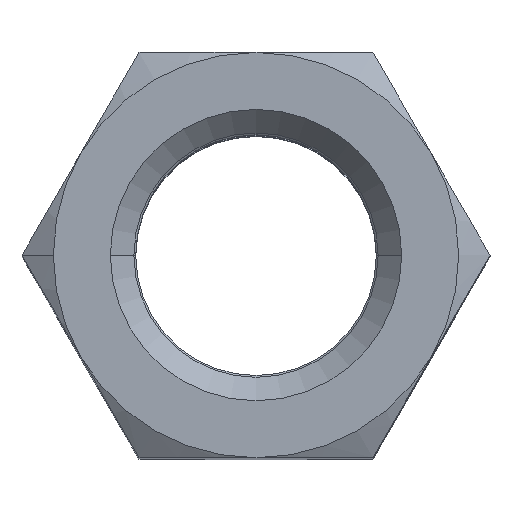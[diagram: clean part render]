
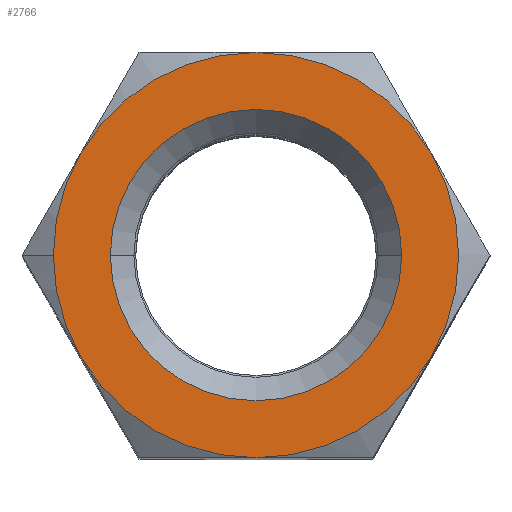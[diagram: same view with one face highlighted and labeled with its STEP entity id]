
A CAD part, top view. The second image highlights one B-rep face of the part: STEP entity #2766.
In plain terms, the highlighted planar face has unit normal (0, 0, 1).
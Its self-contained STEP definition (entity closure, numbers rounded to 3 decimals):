
#83 = EDGE_CURVE ( 'NONE', #6556, #5049, #10028, .T. ) ;
#237 = CARTESIAN_POINT ( 'NONE',  ( 0., 0., 40.25 ) ) ;
#468 = DIRECTION ( 'NONE',  ( 1., 0., 0. ) ) ;
#490 = DIRECTION ( 'NONE',  ( 0., 0., -1. ) ) ;
#504 = CARTESIAN_POINT ( 'NONE',  ( 0., 0., 40.25 ) ) ;
#684 = DIRECTION ( 'NONE',  ( 1., 0., 0. ) ) ;
#1096 = EDGE_CURVE ( 'NONE', #15287, #9611, #11725, .T. ) ;
#1455 = AXIS2_PLACEMENT_3D ( 'NONE', #504, #490, #468 ) ;
#1516 = DIRECTION ( 'NONE',  ( 1., 0., 0. ) ) ;
#1581 = CIRCLE ( 'NONE', #5760, 16. ) ;
#1716 = CARTESIAN_POINT ( 'NONE',  ( 13.856, 8., 40.25 ) ) ;
#1963 = CIRCLE ( 'NONE', #5656, 11.5 ) ;
#2408 = FACE_OUTER_BOUND ( 'NONE', #11923, .T. ) ;
#2522 = CARTESIAN_POINT ( 'NONE',  ( -13.856, -8., 40.25 ) ) ;
#2766 = ADVANCED_FACE ( 'NONE', ( #8516, #2408 ), #3907, .T. ) ;
#2843 = CARTESIAN_POINT ( 'NONE',  ( -13.856, 8., 40.25 ) ) ;
#3281 = AXIS2_PLACEMENT_3D ( 'NONE', #13113, #5764, #14403 ) ;
#3753 = CIRCLE ( 'NONE', #3281, 16. ) ;
#3907 = PLANE ( 'NONE',  #15639 ) ;
#4028 = AXIS2_PLACEMENT_3D ( 'NONE', #5522, #14156, #6743 ) ;
#4084 = DIRECTION ( 'NONE',  ( 1., 0., 0. ) ) ;
#4178 = CARTESIAN_POINT ( 'NONE',  ( -18.475, 0., 40.25 ) ) ;
#4233 = DIRECTION ( 'NONE',  ( 0., 0., 1. ) ) ;
#5036 = EDGE_CURVE ( 'NONE', #12123, #8881, #12647, .T. ) ;
#5049 = VERTEX_POINT ( 'NONE', #6648 ) ;
#5522 = CARTESIAN_POINT ( 'NONE',  ( 0., 0., 40.25 ) ) ;
#5576 = CIRCLE ( 'NONE', #4028, 16. ) ;
#5656 = AXIS2_PLACEMENT_3D ( 'NONE', #15482, #8055, #684 ) ;
#5701 = DIRECTION ( 'NONE',  ( 0., 0., -1. ) ) ;
#5760 = AXIS2_PLACEMENT_3D ( 'NONE', #13043, #5701, #14349 ) ;
#5764 = DIRECTION ( 'NONE',  ( 0., 0., -1. ) ) ;
#6556 = VERTEX_POINT ( 'NONE', #8037 ) ;
#6606 = ORIENTED_EDGE ( 'NONE', *, *, #14192, .T. ) ;
#6620 = DIRECTION ( 'NONE',  ( -1., 0., 0. ) ) ;
#6648 = CARTESIAN_POINT ( 'NONE',  ( 0., -16., 40.25 ) ) ;
#6743 = DIRECTION ( 'NONE',  ( 1., 0., 0. ) ) ;
#6880 = DIRECTION ( 'NONE',  ( 0., 0., -1. ) ) ;
#6882 = DIRECTION ( 'NONE',  ( 1., 0., 0. ) ) ;
#6937 = DIRECTION ( 'NONE',  ( 0., 0., -1. ) ) ;
#7003 = CARTESIAN_POINT ( 'NONE',  ( 0., 0., 40.25 ) ) ;
#7057 = DIRECTION ( 'NONE',  ( 0., 0., -1. ) ) ;
#7160 = VERTEX_POINT ( 'NONE', #10439 ) ;
#7222 = ORIENTED_EDGE ( 'NONE', *, *, #5036, .T. ) ;
#7543 = ORIENTED_EDGE ( 'NONE', *, *, #83, .F. ) ;
#7620 = EDGE_CURVE ( 'NONE', #5049, #7806, #3753, .T. ) ;
#7806 = VERTEX_POINT ( 'NONE', #2522 ) ;
#7948 = ORIENTED_EDGE ( 'NONE', *, *, #1096, .F. ) ;
#8037 = CARTESIAN_POINT ( 'NONE',  ( 13.856, -8., 40.25 ) ) ;
#8055 = DIRECTION ( 'NONE',  ( 0., 0., -1. ) ) ;
#8068 = CARTESIAN_POINT ( 'NONE',  ( -11.5, 0., 40.25 ) ) ;
#8329 = AXIS2_PLACEMENT_3D ( 'NONE', #14455, #7057, #15731 ) ;
#8516 = FACE_BOUND ( 'NONE', #10313, .T. ) ;
#8856 = DIRECTION ( 'NONE',  ( 0., 0., -1. ) ) ;
#8881 = VERTEX_POINT ( 'NONE', #13469 ) ;
#9611 = VERTEX_POINT ( 'NONE', #15073 ) ;
#9776 = EDGE_CURVE ( 'NONE', #7806, #7160, #11873, .T. ) ;
#9842 = CIRCLE ( 'NONE', #14988, 16. ) ;
#10028 = CIRCLE ( 'NONE', #1455, 16. ) ;
#10313 = EDGE_LOOP ( 'NONE', ( #6606, #7222 ) ) ;
#10320 = EDGE_CURVE ( 'NONE', #7160, #15287, #1581, .T. ) ;
#10439 = CARTESIAN_POINT ( 'NONE',  ( -16., 0., 40.25 ) ) ;
#10553 = ORIENTED_EDGE ( 'NONE', *, *, #10320, .F. ) ;
#10753 = ORIENTED_EDGE ( 'NONE', *, *, #7620, .F. ) ;
#11484 = VERTEX_POINT ( 'NONE', #1716 ) ;
#11725 = CIRCLE ( 'NONE', #13367, 16. ) ;
#11748 = ORIENTED_EDGE ( 'NONE', *, *, #14154, .F. ) ;
#11873 = CIRCLE ( 'NONE', #8329, 16. ) ;
#11904 = ORIENTED_EDGE ( 'NONE', *, *, #14599, .F. ) ;
#11923 = EDGE_LOOP ( 'NONE', ( #7543, #11904, #11748, #7948, #10553, #12126, #10753 ) ) ;
#12058 = AXIS2_PLACEMENT_3D ( 'NONE', #7003, #6937, #6882 ) ;
#12123 = VERTEX_POINT ( 'NONE', #8068 ) ;
#12126 = ORIENTED_EDGE ( 'NONE', *, *, #9776, .F. ) ;
#12647 = CIRCLE ( 'NONE', #12058, 11.5 ) ;
#13043 = CARTESIAN_POINT ( 'NONE',  ( 0., 0., 40.25 ) ) ;
#13113 = CARTESIAN_POINT ( 'NONE',  ( 0., 0., 40.25 ) ) ;
#13367 = AXIS2_PLACEMENT_3D ( 'NONE', #13656, #6880, #6620 ) ;
#13469 = CARTESIAN_POINT ( 'NONE',  ( 11.5, 0., 40.25 ) ) ;
#13656 = CARTESIAN_POINT ( 'NONE',  ( 0., 0., 40.25 ) ) ;
#14154 = EDGE_CURVE ( 'NONE', #9611, #11484, #5576, .T. ) ;
#14156 = DIRECTION ( 'NONE',  ( 0., 0., -1. ) ) ;
#14192 = EDGE_CURVE ( 'NONE', #8881, #12123, #1963, .T. ) ;
#14349 = DIRECTION ( 'NONE',  ( 1., 0., 0. ) ) ;
#14403 = DIRECTION ( 'NONE',  ( 1., 0., 0. ) ) ;
#14455 = CARTESIAN_POINT ( 'NONE',  ( 0., 0., 40.25 ) ) ;
#14599 = EDGE_CURVE ( 'NONE', #11484, #6556, #9842, .T. ) ;
#14988 = AXIS2_PLACEMENT_3D ( 'NONE', #237, #8856, #1516 ) ;
#15073 = CARTESIAN_POINT ( 'NONE',  ( 0., 16., 40.25 ) ) ;
#15287 = VERTEX_POINT ( 'NONE', #2843 ) ;
#15482 = CARTESIAN_POINT ( 'NONE',  ( 0., 0., 40.25 ) ) ;
#15639 = AXIS2_PLACEMENT_3D ( 'NONE', #4178, #4233, #4084 ) ;
#15731 = DIRECTION ( 'NONE',  ( 1., 0., 0. ) ) ;
